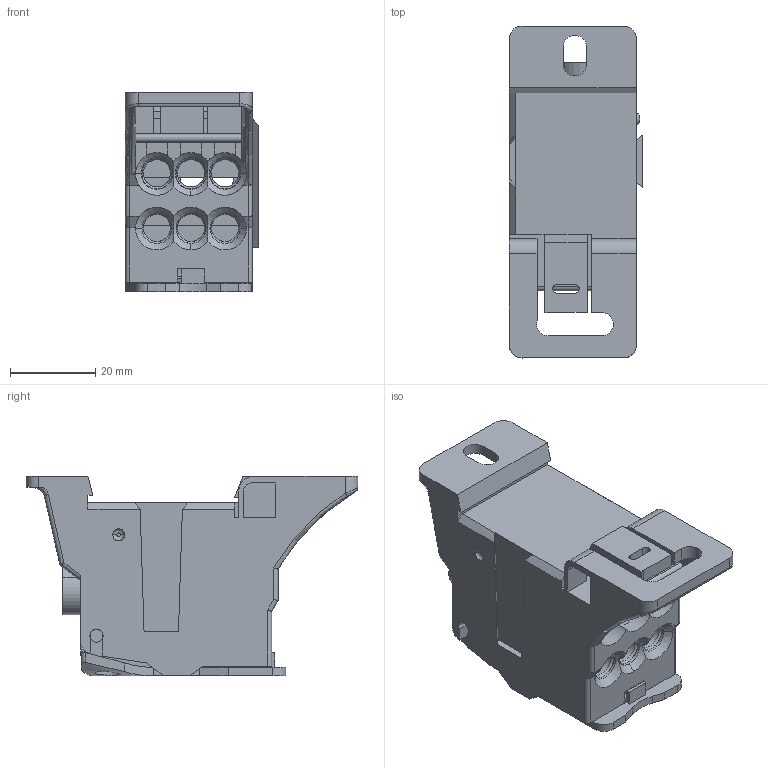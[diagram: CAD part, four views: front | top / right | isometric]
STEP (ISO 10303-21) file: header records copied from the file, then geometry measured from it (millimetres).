
FILE_DESCRIPTION(/* description */ (''),/* implementation_level */ '2;1');
FILE_NAME(/* name */ 'LK160A_stp.stp',/* time_stamp */ '2019-06-13T13:12:09+08:00',/* author */ (''),/* organization */ (''),/* preprocessor_version */ 'ST-DEVELOPER v14',/* originating_system */ 'SIEMENS PLM Software NX 8.0',/* authorisation */ '');
FILE_SCHEMA (('AUTOMOTIVE_DESIGN { 1 0 10303 214 3 1 1 1 }'));
Length unit declared in the file: millimetre
Products named in the file (1): Admi1A04FFE10tn1
Bounding box: 31.3 x 77.9 x 46.85 mm (x, y, z)
Volume: 33330.1 mm3; surface area: 30172.7 mm2
Topology: 3 solids, 3 shells, 420 faces, 1218 edges, 785 vertices
Faces by surface type: plane 211, cylinder 144, cone 42, bspline 14, torus 9
Entity records: 17218 total; most frequent: CARTESIAN_POINT 4254, ORIENTED_EDGE 2436, DIRECTION 2231, EDGE_CURVE 1218, VERTEX_POINT 785, AXIS2_PLACEMENT_3D 747, LINE 737, VECTOR 737
